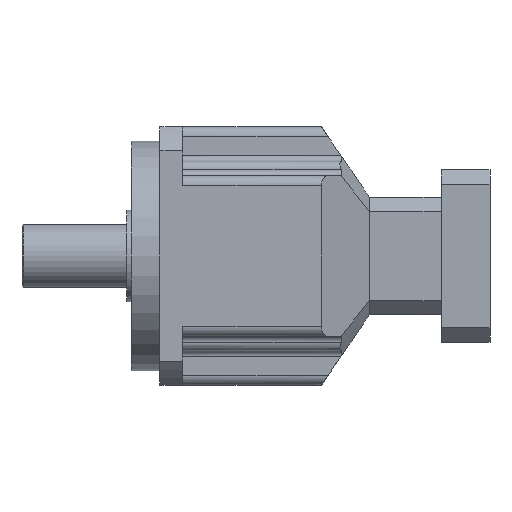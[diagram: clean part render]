
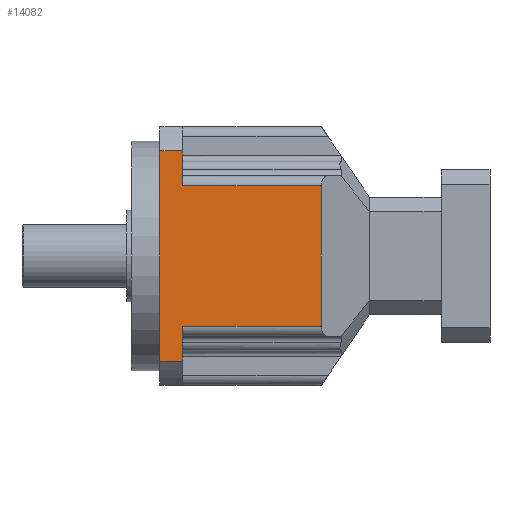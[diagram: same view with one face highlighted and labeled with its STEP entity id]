
A CAD part, left-side view. The second image highlights one B-rep face of the part: STEP entity #14082.
In plain terms, the highlighted planar face has unit normal (-1, 0, 0).
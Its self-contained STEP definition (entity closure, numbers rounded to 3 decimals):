
#487 = EDGE_CURVE ( 'NONE', #18103, #12340, #3584, .T. ) ;
#571 = LINE ( 'NONE', #12566, #15519 ) ;
#710 = EDGE_CURVE ( 'NONE', #12198, #19920, #13377, .T. ) ;
#1488 = CARTESIAN_POINT ( 'NONE',  ( -109.664, 62.276, 36.592 ) ) ;
#1549 = CARTESIAN_POINT ( 'NONE',  ( -109.664, 6.019, 24.5 ) ) ;
#1878 = DIRECTION ( 'NONE',  ( 0., 0., 1. ) ) ;
#2477 = CARTESIAN_POINT ( 'NONE',  ( -109.664, 6.019, 36.592 ) ) ;
#2828 = AXIS2_PLACEMENT_3D ( 'NONE', #18231, #7860, #19792 ) ;
#3018 = ORIENTED_EDGE ( 'NONE', *, *, #10193, .T. ) ;
#3411 = VERTEX_POINT ( 'NONE', #19222 ) ;
#3584 = LINE ( 'NONE', #5212, #21485 ) ;
#4423 = VECTOR ( 'NONE', #14461, 1000. ) ;
#4483 = ORIENTED_EDGE ( 'NONE', *, *, #487, .T. ) ;
#5051 = DIRECTION ( 'NONE',  ( 0., 0., 1. ) ) ;
#5212 = CARTESIAN_POINT ( 'NONE',  ( -109.664, 54.276, 36.592 ) ) ;
#5866 = ORIENTED_EDGE ( 'NONE', *, *, #10280, .F. ) ;
#6049 = CARTESIAN_POINT ( 'NONE',  ( -109.664, 54.276, 36.592 ) ) ;
#6296 = VECTOR ( 'NONE', #5051, 1000. ) ;
#7124 = DIRECTION ( 'NONE',  ( 0., -1., 0. ) ) ;
#7131 = LINE ( 'NONE', #14319, #4423 ) ;
#7224 = VERTEX_POINT ( 'NONE', #7833 ) ;
#7833 = CARTESIAN_POINT ( 'NONE',  ( -109.664, 62.276, -36.592 ) ) ;
#7860 = DIRECTION ( 'NONE',  ( -1., 0., 0. ) ) ;
#8629 = CARTESIAN_POINT ( 'NONE',  ( -109.664, 6.019, -24.5 ) ) ;
#8656 = DIRECTION ( 'NONE',  ( 0., -1., 0. ) ) ;
#8772 = EDGE_CURVE ( 'NONE', #22481, #10042, #10937, .T. ) ;
#9295 = VECTOR ( 'NONE', #12948, 1000. ) ;
#10042 = VERTEX_POINT ( 'NONE', #1549 ) ;
#10193 = EDGE_CURVE ( 'NONE', #10042, #3411, #7131, .T. ) ;
#10280 = EDGE_CURVE ( 'NONE', #7224, #19920, #571, .T. ) ;
#10937 = LINE ( 'NONE', #17220, #6296 ) ;
#11149 = PLANE ( 'NONE',  #2828 ) ;
#11178 = EDGE_LOOP ( 'NONE', ( #11914, #11203, #5866, #14632, #4483, #18381, #14004, #3018 ) ) ;
#11203 = ORIENTED_EDGE ( 'NONE', *, *, #710, .T. ) ;
#11576 = FACE_OUTER_BOUND ( 'NONE', #11178, .T. ) ;
#11914 = ORIENTED_EDGE ( 'NONE', *, *, #18118, .T. ) ;
#12198 = VERTEX_POINT ( 'NONE', #20528 ) ;
#12340 = VERTEX_POINT ( 'NONE', #19023 ) ;
#12566 = CARTESIAN_POINT ( 'NONE',  ( -109.664, 62.276, 0. ) ) ;
#12641 = DIRECTION ( 'NONE',  ( 0., 0., 1. ) ) ;
#12948 = DIRECTION ( 'NONE',  ( 0., 0., 1. ) ) ;
#13377 = LINE ( 'NONE', #2477, #16386 ) ;
#13965 = CARTESIAN_POINT ( 'NONE',  ( -109.664, 6.019, -24.5 ) ) ;
#14004 = ORIENTED_EDGE ( 'NONE', *, *, #8772, .T. ) ;
#14082 = ADVANCED_FACE ( 'NONE', ( #11576 ), #11149, .T. ) ;
#14319 = CARTESIAN_POINT ( 'NONE',  ( -109.664, 6.019, 24.5 ) ) ;
#14461 = DIRECTION ( 'NONE',  ( 0., 1., 0. ) ) ;
#14559 = CARTESIAN_POINT ( 'NONE',  ( -109.664, 54.276, -36.592 ) ) ;
#14619 = DIRECTION ( 'NONE',  ( 0., 1., 0. ) ) ;
#14632 = ORIENTED_EDGE ( 'NONE', *, *, #17785, .T. ) ;
#15519 = VECTOR ( 'NONE', #12641, 1000. ) ;
#16386 = VECTOR ( 'NONE', #14619, 1000. ) ;
#17220 = CARTESIAN_POINT ( 'NONE',  ( -109.664, 6.019, 36.592 ) ) ;
#17785 = EDGE_CURVE ( 'NONE', #7224, #18103, #20658, .T. ) ;
#17890 = EDGE_CURVE ( 'NONE', #12340, #22481, #18516, .T. ) ;
#17974 = VECTOR ( 'NONE', #8656, 1000. ) ;
#18103 = VERTEX_POINT ( 'NONE', #14559 ) ;
#18118 = EDGE_CURVE ( 'NONE', #3411, #12198, #19027, .T. ) ;
#18231 = CARTESIAN_POINT ( 'NONE',  ( -109.664, 6.019, 36.592 ) ) ;
#18381 = ORIENTED_EDGE ( 'NONE', *, *, #17890, .T. ) ;
#18516 = LINE ( 'NONE', #13965, #17974 ) ;
#19023 = CARTESIAN_POINT ( 'NONE',  ( -109.664, 54.276, -24.5 ) ) ;
#19027 = LINE ( 'NONE', #6049, #9295 ) ;
#19089 = CARTESIAN_POINT ( 'NONE',  ( -109.664, 6.019, -36.592 ) ) ;
#19222 = CARTESIAN_POINT ( 'NONE',  ( -109.664, 54.276, 24.5 ) ) ;
#19792 = DIRECTION ( 'NONE',  ( 0., 0., 1. ) ) ;
#19920 = VERTEX_POINT ( 'NONE', #1488 ) ;
#20528 = CARTESIAN_POINT ( 'NONE',  ( -109.664, 54.276, 36.592 ) ) ;
#20658 = LINE ( 'NONE', #19089, #20911 ) ;
#20911 = VECTOR ( 'NONE', #7124, 1000. ) ;
#21485 = VECTOR ( 'NONE', #1878, 1000. ) ;
#22481 = VERTEX_POINT ( 'NONE', #8629 ) ;
